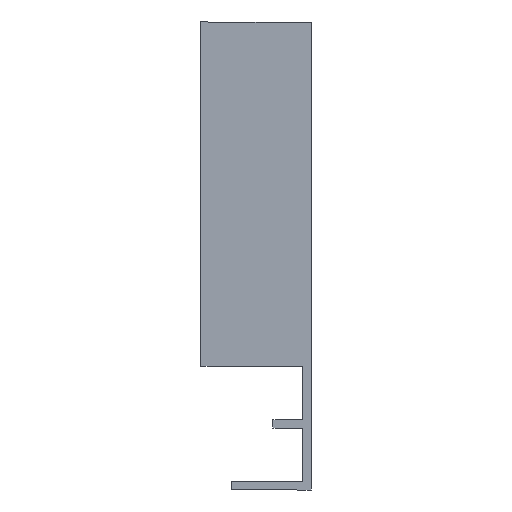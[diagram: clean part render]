
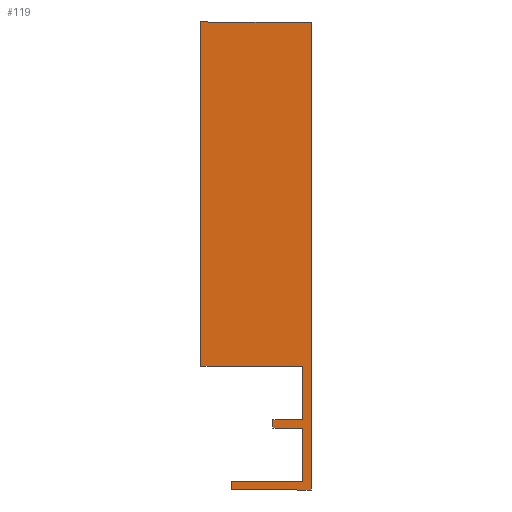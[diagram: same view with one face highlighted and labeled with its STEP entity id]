
A CAD part, left-side view. The second image highlights one B-rep face of the part: STEP entity #119.
In plain terms, the highlighted planar face has unit normal (-1, 0, 0).
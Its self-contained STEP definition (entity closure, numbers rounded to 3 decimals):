
#13 = VERTEX_POINT ( 'NONE', #85 ) ;
#17 = VERTEX_POINT ( 'NONE', #29 ) ;
#20 = DIRECTION ( 'NONE',  ( 0., -1., 0. ) ) ;
#21 = DIRECTION ( 'NONE',  ( -1., 0., 0. ) ) ;
#23 = CARTESIAN_POINT ( 'NONE',  ( -336.5, -4.3, -8.95 ) ) ;
#28 = CARTESIAN_POINT ( 'NONE',  ( -336.5, 6., -16.7 ) ) ;
#29 = CARTESIAN_POINT ( 'NONE',  ( -336.5, -5.5, 49.7 ) ) ;
#32 = PLANE ( 'NONE',  #196 ) ;
#57 = VERTEX_POINT ( 'NONE', #23 ) ;
#64 = CARTESIAN_POINT ( 'NONE',  ( -336.5, 0., -8.95 ) ) ;
#65 = CARTESIAN_POINT ( 'NONE',  ( -336.5, 0., -7.75 ) ) ;
#67 = CARTESIAN_POINT ( 'NONE',  ( -336.5, -4.3, -7.75 ) ) ;
#69 = CARTESIAN_POINT ( 'NONE',  ( -336.5, -4.3, 0. ) ) ;
#71 = CARTESIAN_POINT ( 'NONE',  ( -336.5, 10.4, 0. ) ) ;
#73 = CARTESIAN_POINT ( 'NONE',  ( -336.5, 10.4, 49.7 ) ) ;
#76 = CARTESIAN_POINT ( 'NONE',  ( -336.5, -5.5, -17.9 ) ) ;
#81 = CARTESIAN_POINT ( 'NONE',  ( -336.5, 6., -16.7 ) ) ;
#83 = CARTESIAN_POINT ( 'NONE',  ( -336.5, -4.3, -16.7 ) ) ;
#85 = CARTESIAN_POINT ( 'NONE',  ( -336.5, 6., -17.9 ) ) ;
#87 = VERTEX_POINT ( 'NONE', #83 ) ;
#89 = VERTEX_POINT ( 'NONE', #81 ) ;
#94 = VERTEX_POINT ( 'NONE', #76 ) ;
#97 = VERTEX_POINT ( 'NONE', #73 ) ;
#99 = VERTEX_POINT ( 'NONE', #71 ) ;
#101 = VERTEX_POINT ( 'NONE', #69 ) ;
#103 = VERTEX_POINT ( 'NONE', #67 ) ;
#105 = VERTEX_POINT ( 'NONE', #65 ) ;
#106 = VERTEX_POINT ( 'NONE', #64 ) ;
#119 = ADVANCED_FACE ( 'NONE', ( #336 ), #32, .T. ) ;
#137 = EDGE_CURVE ( 'NONE', #13, #94, #467, .T. ) ;
#138 = EDGE_CURVE ( 'NONE', #89, #13, #471, .T. ) ;
#139 = EDGE_CURVE ( 'NONE', #17, #97, #465, .T. ) ;
#141 = EDGE_CURVE ( 'NONE', #97, #99, #352, .T. ) ;
#143 = EDGE_CURVE ( 'NONE', #99, #101, #461, .T. ) ;
#146 = EDGE_CURVE ( 'NONE', #101, #103, #475, .T. ) ;
#150 = EDGE_CURVE ( 'NONE', #106, #57, #483, .T. ) ;
#151 = EDGE_CURVE ( 'NONE', #94, #17, #493, .T. ) ;
#155 = EDGE_CURVE ( 'NONE', #103, #105, #500, .T. ) ;
#162 = EDGE_CURVE ( 'NONE', #57, #87, #497, .T. ) ;
#181 = EDGE_CURVE ( 'NONE', #87, #89, #517, .T. ) ;
#192 = EDGE_CURVE ( 'NONE', #105, #106, #537, .T. ) ;
#196 = AXIS2_PLACEMENT_3D ( 'NONE', #28, #21, #20 ) ;
#231 = CARTESIAN_POINT ( 'NONE',  ( -336.5, 6., -16.7 ) ) ;
#236 = CARTESIAN_POINT ( 'NONE',  ( -336.5, 10.4, 49.7 ) ) ;
#237 = CARTESIAN_POINT ( 'NONE',  ( -336.5, 6., -17.9 ) ) ;
#238 = DIRECTION ( 'NONE',  ( 0., -1., 0. ) ) ;
#240 = DIRECTION ( 'NONE',  ( 0., 0., -1. ) ) ;
#241 = CARTESIAN_POINT ( 'NONE',  ( -336.5, -5.5, 49.7 ) ) ;
#242 = DIRECTION ( 'NONE',  ( 0., 1., 0. ) ) ;
#245 = CARTESIAN_POINT ( 'NONE',  ( -336.5, 10.4, 0. ) ) ;
#246 = DIRECTION ( 'NONE',  ( 0., 0., -1. ) ) ;
#250 = DIRECTION ( 'NONE',  ( 0., -1., 0. ) ) ;
#253 = CARTESIAN_POINT ( 'NONE',  ( -336.5, -4.3, 0. ) ) ;
#256 = DIRECTION ( 'NONE',  ( 0., 0., -1. ) ) ;
#261 = CARTESIAN_POINT ( 'NONE',  ( -336.5, 0., -8.95 ) ) ;
#262 = DIRECTION ( 'NONE',  ( 0., 0., 1. ) ) ;
#267 = DIRECTION ( 'NONE',  ( 0., 1., 0. ) ) ;
#268 = CARTESIAN_POINT ( 'NONE',  ( -336.5, -4.3, -7.75 ) ) ;
#270 = DIRECTION ( 'NONE',  ( 0., -1., 0. ) ) ;
#271 = CARTESIAN_POINT ( 'NONE',  ( -336.5, -5.5, -17.9 ) ) ;
#283 = CARTESIAN_POINT ( 'NONE',  ( -336.5, -4.3, -8.95 ) ) ;
#284 = DIRECTION ( 'NONE',  ( 0., 0., -1. ) ) ;
#289 = CARTESIAN_POINT ( 'NONE',  ( -336.5, -4.3, -16.7 ) ) ;
#290 = DIRECTION ( 'NONE',  ( 0., 1., 0. ) ) ;
#311 = CARTESIAN_POINT ( 'NONE',  ( -336.5, 0., -7.75 ) ) ;
#312 = DIRECTION ( 'NONE',  ( 0., 0., -1. ) ) ;
#336 = FACE_OUTER_BOUND ( 'NONE', #417, .T. ) ;
#350 = VECTOR ( 'NONE', #250, 1000. ) ;
#352 = LINE ( 'NONE', #236, #468 ) ;
#356 = VECTOR ( 'NONE', #242, 1000. ) ;
#366 = ORIENTED_EDGE ( 'NONE', *, *, #141, .T. ) ;
#367 = ORIENTED_EDGE ( 'NONE', *, *, #139, .T. ) ;
#368 = ORIENTED_EDGE ( 'NONE', *, *, #151, .T. ) ;
#369 = ORIENTED_EDGE ( 'NONE', *, *, #137, .T. ) ;
#370 = ORIENTED_EDGE ( 'NONE', *, *, #181, .T. ) ;
#371 = ORIENTED_EDGE ( 'NONE', *, *, #138, .T. ) ;
#375 = ORIENTED_EDGE ( 'NONE', *, *, #143, .T. ) ;
#376 = ORIENTED_EDGE ( 'NONE', *, *, #146, .T. ) ;
#377 = ORIENTED_EDGE ( 'NONE', *, *, #155, .T. ) ;
#378 = ORIENTED_EDGE ( 'NONE', *, *, #192, .T. ) ;
#379 = ORIENTED_EDGE ( 'NONE', *, *, #150, .T. ) ;
#380 = ORIENTED_EDGE ( 'NONE', *, *, #162, .T. ) ;
#417 = EDGE_LOOP ( 'NONE', ( #370, #371, #369, #368, #367, #366, #375, #376, #377, #378, #379, #380 ) ) ;
#461 = LINE ( 'NONE', #245, #350 ) ;
#464 = VECTOR ( 'NONE', #240, 1000. ) ;
#465 = LINE ( 'NONE', #241, #356 ) ;
#466 = VECTOR ( 'NONE', #238, 1000. ) ;
#467 = LINE ( 'NONE', #237, #466 ) ;
#468 = VECTOR ( 'NONE', #246, 1000. ) ;
#471 = LINE ( 'NONE', #231, #464 ) ;
#475 = LINE ( 'NONE', #253, #484 ) ;
#483 = LINE ( 'NONE', #261, #491 ) ;
#484 = VECTOR ( 'NONE', #256, 1000. ) ;
#491 = VECTOR ( 'NONE', #270, 1000. ) ;
#493 = LINE ( 'NONE', #271, #494 ) ;
#494 = VECTOR ( 'NONE', #262, 1000. ) ;
#497 = LINE ( 'NONE', #283, #504 ) ;
#500 = LINE ( 'NONE', #268, #501 ) ;
#501 = VECTOR ( 'NONE', #267, 1000. ) ;
#504 = VECTOR ( 'NONE', #284, 1000. ) ;
#517 = LINE ( 'NONE', #289, #518 ) ;
#518 = VECTOR ( 'NONE', #290, 1000. ) ;
#537 = LINE ( 'NONE', #311, #538 ) ;
#538 = VECTOR ( 'NONE', #312, 1000. ) ;
